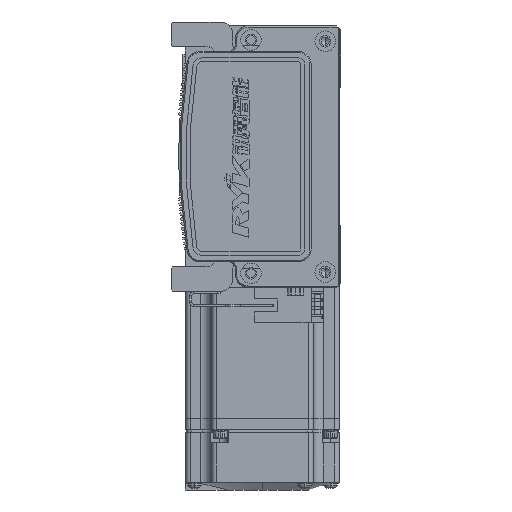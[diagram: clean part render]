
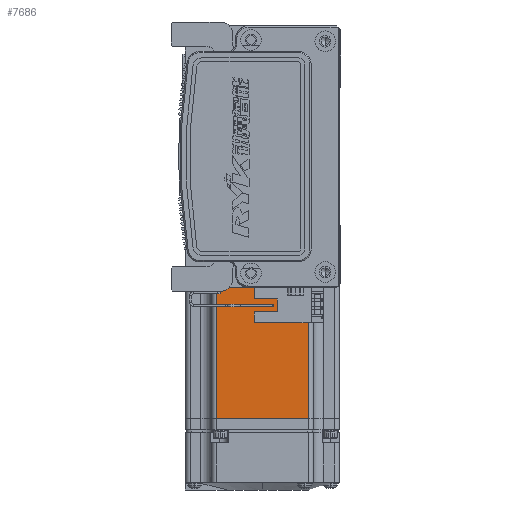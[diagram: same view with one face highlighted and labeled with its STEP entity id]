
A CAD part, left-side view. The second image highlights one B-rep face of the part: STEP entity #7686.
In plain terms, the highlighted planar face has unit normal (-1, 0, 0) as drawn and (0, 0, 1) by its records, which use the part's own axes.
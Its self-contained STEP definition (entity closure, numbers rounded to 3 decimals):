
#1633 = VECTOR ( 'NONE', #61491, 1000. ) ;
#3506 = DIRECTION ( 'NONE',  ( 0., 0., 1. ) ) ;
#5198 = ORIENTED_EDGE ( 'NONE', *, *, #64778, .F. ) ;
#6948 = EDGE_CURVE ( 'NONE', #56826, #56228, #41343, .T. ) ;
#7686 = ADVANCED_FACE ( 'NONE', ( #39600 ), #19787, .T. ) ;
#7944 = CARTESIAN_POINT ( 'NONE',  ( -6.5, 18., 30. ) ) ;
#9984 = LINE ( 'NONE', #7944, #1633 ) ;
#13618 = CARTESIAN_POINT ( 'NONE',  ( -6.5, -18., 30. ) ) ;
#14759 = CARTESIAN_POINT ( 'NONE',  ( -7.75, -18., 30. ) ) ;
#15636 = VECTOR ( 'NONE', #38728, 1000. ) ;
#19787 = PLANE ( 'NONE',  #44125 ) ;
#22283 = VERTEX_POINT ( 'NONE', #14759 ) ;
#24462 = DIRECTION ( 'NONE',  ( 1., 0., 0. ) ) ;
#28130 = CARTESIAN_POINT ( 'NONE',  ( -70.95, 0., 30. ) ) ;
#28598 = EDGE_LOOP ( 'NONE', ( #34695, #38343, #51429, #5198 ) ) ;
#28687 = LINE ( 'NONE', #13618, #55150 ) ;
#34695 = ORIENTED_EDGE ( 'NONE', *, *, #58249, .F. ) ;
#35491 = VECTOR ( 'NONE', #37751, 1000. ) ;
#37751 = DIRECTION ( 'NONE',  ( 0., -1., 0. ) ) ;
#38343 = ORIENTED_EDGE ( 'NONE', *, *, #46585, .T. ) ;
#38728 = DIRECTION ( 'NONE',  ( 0., -1., 0. ) ) ;
#39600 = FACE_OUTER_BOUND ( 'NONE', #28598, .T. ) ;
#41343 = LINE ( 'NONE', #28130, #15636 ) ;
#41436 = CARTESIAN_POINT ( 'NONE',  ( -7.75, 18., 30. ) ) ;
#42135 = LINE ( 'NONE', #42639, #35491 ) ;
#42639 = CARTESIAN_POINT ( 'NONE',  ( -7.75, 0., 30. ) ) ;
#44125 = AXIS2_PLACEMENT_3D ( 'NONE', #66839, #3506, #24462 ) ;
#46585 = EDGE_CURVE ( 'NONE', #62959, #56826, #9984, .T. ) ;
#50940 = CARTESIAN_POINT ( 'NONE',  ( -70.95, -18., 30. ) ) ;
#51429 = ORIENTED_EDGE ( 'NONE', *, *, #6948, .T. ) ;
#51670 = DIRECTION ( 'NONE',  ( -1., 0., 0. ) ) ;
#55150 = VECTOR ( 'NONE', #51670, 1000. ) ;
#56228 = VERTEX_POINT ( 'NONE', #50940 ) ;
#56826 = VERTEX_POINT ( 'NONE', #65947 ) ;
#58249 = EDGE_CURVE ( 'NONE', #62959, #22283, #42135, .T. ) ;
#61491 = DIRECTION ( 'NONE',  ( -1., 0., 0. ) ) ;
#62959 = VERTEX_POINT ( 'NONE', #41436 ) ;
#64778 = EDGE_CURVE ( 'NONE', #22283, #56228, #28687, .T. ) ;
#65947 = CARTESIAN_POINT ( 'NONE',  ( -70.95, 18., 30. ) ) ;
#66839 = CARTESIAN_POINT ( 'NONE',  ( -6.5, -25., 30. ) ) ;
